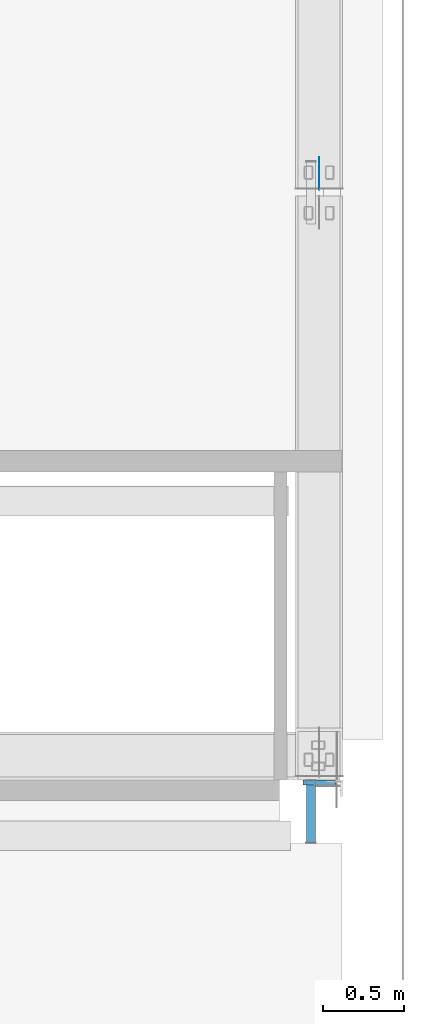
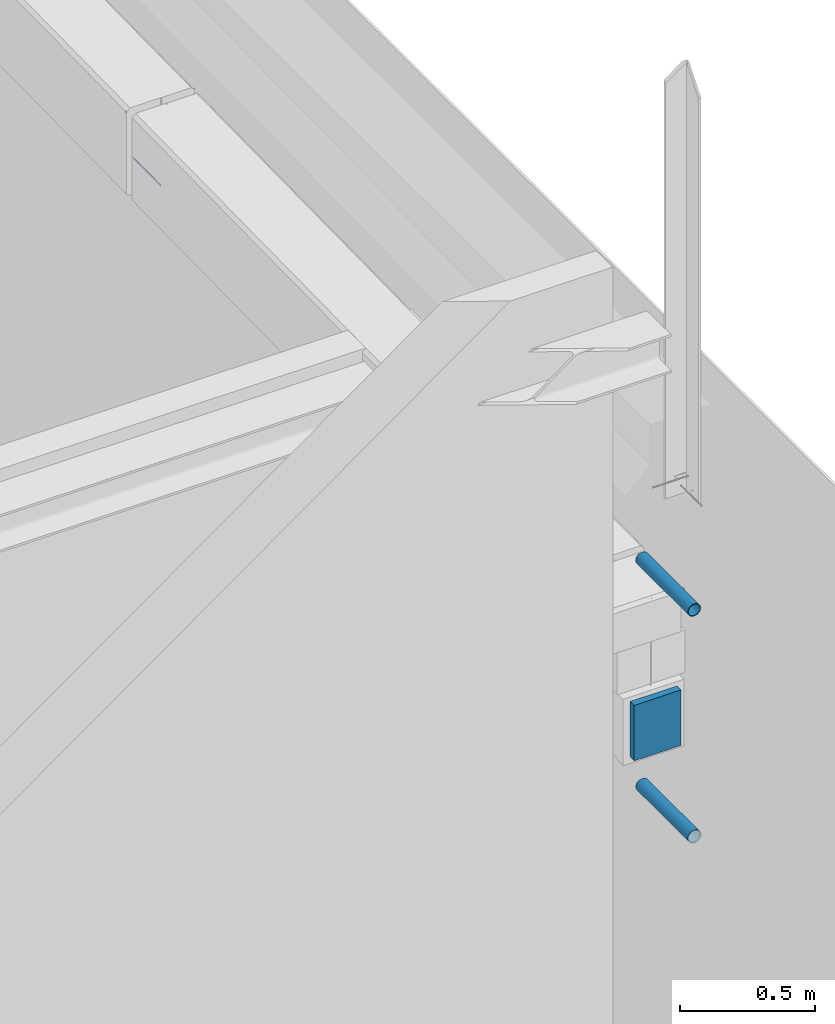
# One storey, part 48 of 186: 4 beams.
"""IFC4X3_ADD2 building model written with IfcOpenShell, lengths in millimetres."""

from ifc_helpers import new_model, si_unit, direction, frame, frame_2d, origin_with_axes, place, context, subcontext, project, spatial, rectangle, hollow_circle, extrude, material, element, save


model = new_model("IFC4X3_ADD2")

# Units and contexts
model_context = context("Model", 3, precision=1e-05, world=origin_with_axes(), true_north=direction((0.0, 1.0)))
body_context = subcontext(model_context, "Body", "Model", "MODEL_VIEW")
ifc_project = project(units=[si_unit("LENGTHUNIT", "METRE", prefix="MILLI"), si_unit("AREAUNIT", "SQUARE_METRE"), si_unit("VOLUMEUNIT", "CUBIC_METRE"), si_unit("PLANEANGLEUNIT", "RADIAN"), si_unit("TIMEUNIT", "SECOND"), si_unit("MASSUNIT", "GRAM")], contexts=[model_context])

# Site, building, storey
site_placement = place(None, origin_with_axes())
site = spatial("IfcSite", under=ifc_project, at=site_placement, Name="Site", CompositionType="ELEMENT")
building_placement = place(site_placement, origin_with_axes())
building = spatial("IfcBuilding", under=site, at=building_placement, Name="IFC Building Story")
storey_placement = place(building_placement, frame((0.0, 0.0, 4370.0), z_axis=(0.0, 0.0, 1.0), x_axis=(1.0, 0.0, 0.0)))
storey = spatial("IfcBuildingStorey", under=building, at=storey_placement, Name="ETAGE 10 (1)", Elevation=4370.0)

# Beams
ifc_material_1 = material(Name="STEEL/Accessory_invisible 261")
beam_1_placement = place(storey_placement, frame((48360.6886988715, 21739.9272317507, 2884.623470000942), z_axis=(1.0, 0.0, 0.0), x_axis=(0.0, 0.01552555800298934, -0.9998794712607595)))
element("IfcBeam", 1, at=beam_1_placement, inside=storey, material=ifc_material_1, Name="BEK4", ObjectType="8*1", context=body_context, shape_type="SweptSolid", body=[
    extrude(rectangle(XDim=8.00000000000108, YDim=200.024108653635, at=frame_2d((0.0, 5.95523630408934e-12), x_axis=(1.0, 0.0))), origin_with_axes(), (0.0, 0.0, 1.0), 1.0),
])
ifc_material_2 = material(Name="STEEL/Accessory_PVC")
for number, where, z_axis, x_axis, name in (
    (2, (48311.1886362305, 17612.9996109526, 2409.674), (0.0, 1.0, 0.0), (1.0, 0.0, 0.0), "PS13"),
    (3, (48311.1886362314, 17612.9996108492, 3430.0), (0.0, 1.0, 0.0), (1.0, 0.0, 0.0), "PS13"),
):
    element("IfcBeam", number, at=place(storey_placement, frame(where, z_axis=z_axis, x_axis=x_axis)), inside=storey, material=ifc_material_2, Name=name, ObjectType="O56*3", context=body_context, shape_type="SweptSolid", body=[
        extrude(hollow_circle(Radius=28.0, WallThickness=3.0, at=frame_2d((0.0, 5.95523630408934e-12), x_axis=(1.0, 0.0))), origin_with_axes(), (0.0, 0.0, 1.0), 384.0),
    ])
ifc_material_3 = material(Name="STEEL/Accessory_EPS")
beam_2_placement = place(storey_placement, frame((48461.18863623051, 17984.9996109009, 2675.33300000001), z_axis=(-1.0, 0.0, 0.0), x_axis=(0.0, 0.0, -1.0)))
element("IfcBeam", 4, at=beam_2_placement, inside=storey, material=ifc_material_3, Name="POL4", ObjectType="30*200", context=body_context, shape_type="SweptSolid", body=[
    extrude(rectangle(XDim=249.999999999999, YDim=29.9999999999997, at=frame_2d((0.0, 5.95523630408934e-12), x_axis=(1.0, 0.0))), origin_with_axes(), (0.0, 0.0, 1.0), 200.0000000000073),
])

save(model, "model.ifc")
